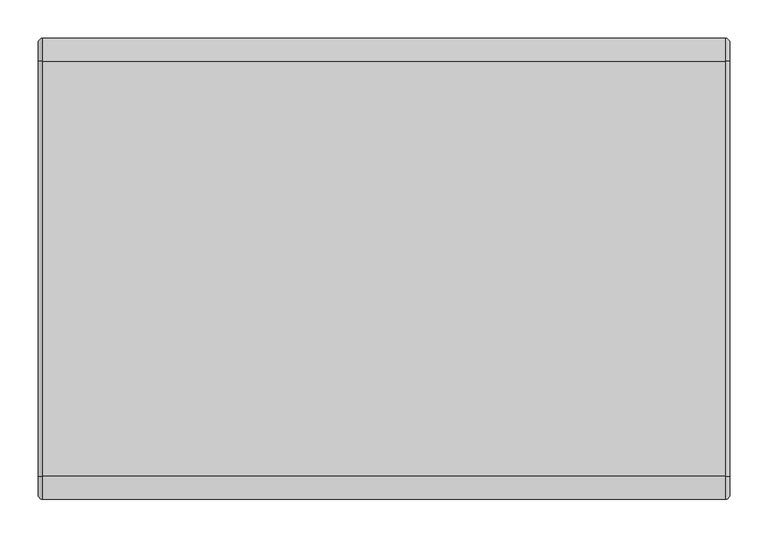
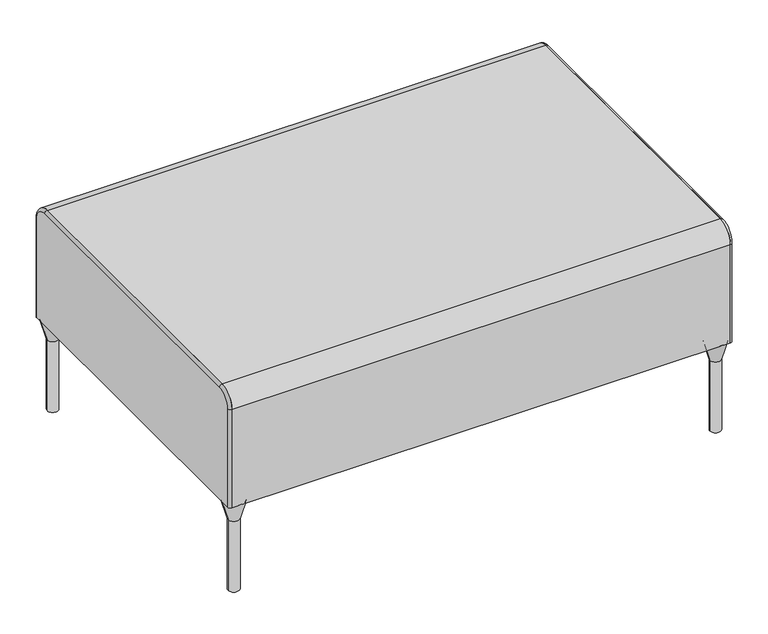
"""IFC4 building model written with IfcOpenShell, lengths in millimetres: furniture geometry, Pouf_Bensen_Neo_NEO000IT : Pouf_Bensen_Neo_NEO000IT."""

from ifc_helpers import new_model, si_unit, point, frame, frame_2d, origin, place, context, project, spatial, polyline, circle_curve, ellipse_curve, trimmed, segment, composite_curve, outline, extrude, source, transform, mapped, element, save
from ifc_brep_helpers import plane_surface, cylinder_surface, revolved_surface, advanced_brep


def furniture_fc90c400(model_context):
    return source(origin(), model_context, "Body", "SolidModel", [
        advanced_brep(
        [(430.0275996, 280.0275996, 0.0), (439.8719303, 280.0275996, 0.0), (420.1832689, 280.0275996, 0.0), (410.0551992, 280.0275996, 170.0), (450.0, 280.0275996, 170.0), (430.0275996, 280.0275996, 170.0), (420.1832689, 280.0275996, 133.7982678), (439.8719303, 280.0275996, 133.7982678)],
        [
            (0, 1),
            (1, 2, circle_curve(frame((430.0275996, 280.0275996, 0.0), z_axis=(0.0, 0.0, -1.0), x_axis=(1.0, 0.0, 0.0)), 9.8443307)),
            (2, 0),
            (2, 1, circle_curve(frame((430.0275996, 280.0275996, 0.0), z_axis=(0.0, 0.0, -1.0), x_axis=(1.0, 0.0, 0.0)), 9.8443307)),
            (3, 4, circle_curve(frame((430.0275996, 280.0275996, 170.0), z_axis=(0.0, 0.0, 1.0), x_axis=(1.0, 0.0, 0.0)), 19.9724004)),
            (4, 5),
            (5, 3),
            (4, 3, circle_curve(frame((430.0275996, 280.0275996, 170.0), z_axis=(0.0, 0.0, 1.0), x_axis=(1.0, 0.0, 0.0)), 19.9724004)),
            (6, 7, circle_curve(frame((430.0275996, 280.0275996, 133.7982678), z_axis=(0.0, 0.0, 1.0), x_axis=(1.0, 0.0, 0.0)), 9.8443307)),
            (7, 4),
            (3, 6),
            (7, 6, circle_curve(frame((430.0275996, 280.0275996, 133.7982678), z_axis=(0.0, 0.0, 1.0), x_axis=(1.0, 0.0, 0.0)), 9.8443307)),
            (1, 7),
            (6, 2),
        ],
        [
            plane_surface(frame((430.0275996, 280.0275996, 0.0), z_axis=(0.0, 0.0, -1.0), x_axis=(1.0, 0.0, 0.0))),
            plane_surface(frame((430.0275996, 280.0275996, 170.0), z_axis=(0.0, 0.0, 1.0), x_axis=(1.0, 0.0, 0.0))),
            revolved_surface(polyline([(450.0, 280.0275996, 170.0), (439.8719303, 280.0275996, 133.7982678)]), (430.0275996, 280.0275996, 210.0), (0.0, 0.0, -1.0)),
            cylinder_surface(frame((430.0275996, 280.0275996, 210.0), z_axis=(0.0, 0.0, -1.0), x_axis=(1.0, 0.0, 0.0)), 9.8443307),
        ],
        [
            (0, [[1, 2, 3]]),
            (0, [[-3, 4, -1]]),
            (1, [[5, 6, 7]]),
            (1, [[8, -7, -6]]),
            (2, [[9, 10, -5, 11]]),
            (2, [[12, -11, -8, -10]]),
            (3, [[-2, 13, -9, 14]]),
            (3, [[-4, -14, -12, -13]]),
        ],
    ),
        advanced_brep(
        [(430.0275996, -280.0275996, 0.0), (420.1832689, -280.0275996, 0.0), (439.8719303, -280.0275996, 0.0), (410.0551992, -280.0275996, 170.0), (430.0275996, -280.0275996, 170.0), (450.0, -280.0275996, 170.0), (420.1832689, -280.0275996, 133.7982678), (439.8719303, -280.0275996, 133.7982678)],
        [
            (0, 1),
            (1, 2, circle_curve(frame((430.0275996, -280.0275996, 0.0), z_axis=(0.0, 0.0, -1.0), x_axis=(1.0, 0.0, 0.0)), 9.8443307)),
            (2, 0),
            (2, 1, circle_curve(frame((430.0275996, -280.0275996, 0.0), z_axis=(0.0, 0.0, -1.0), x_axis=(1.0, 0.0, 0.0)), 9.8443307)),
            (3, 4),
            (4, 5),
            (5, 3, circle_curve(frame((430.0275996, -280.0275996, 170.0), z_axis=(0.0, 0.0, 1.0), x_axis=(1.0, 0.0, 0.0)), 19.9724004)),
            (3, 5, circle_curve(frame((430.0275996, -280.0275996, 170.0), z_axis=(0.0, 0.0, 1.0), x_axis=(1.0, 0.0, 0.0)), 19.9724004)),
            (6, 3),
            (5, 7),
            (7, 6, circle_curve(frame((430.0275996, -280.0275996, 133.7982678), z_axis=(0.0, 0.0, 1.0), x_axis=(1.0, 0.0, 0.0)), 9.8443307)),
            (6, 7, circle_curve(frame((430.0275996, -280.0275996, 133.7982678), z_axis=(0.0, 0.0, 1.0), x_axis=(1.0, 0.0, 0.0)), 9.8443307)),
            (1, 6),
            (7, 2),
        ],
        [
            plane_surface(frame((430.0275996, -280.0275996, 0.0), z_axis=(0.0, 0.0, -1.0), x_axis=(1.0, 0.0, 0.0))),
            plane_surface(frame((430.0275996, -280.0275996, 170.0), z_axis=(0.0, 0.0, 1.0), x_axis=(1.0, 0.0, 0.0))),
            revolved_surface(polyline([(450.0, -280.0275996, 170.0), (439.8719303, -280.0275996, 133.7982678)]), (430.0275996, -280.0275996, 210.0), (0.0, 0.0, -1.0)),
            cylinder_surface(frame((430.0275996, -280.0275996, 210.0), z_axis=(0.0, 0.0, -1.0), x_axis=(1.0, 0.0, 0.0)), 9.8443307),
        ],
        [
            (0, [[1, 2, 3]]),
            (0, [[-3, 4, -1]]),
            (1, [[5, 6, 7]]),
            (1, [[-6, -5, 8]]),
            (2, [[9, -7, 10, 11]]),
            (2, [[-10, -8, -9, 12]]),
            (3, [[13, -11, 14, -2]]),
            (3, [[-14, -12, -13, -4]]),
        ],
    ),
        advanced_brep(
        [(-430.0275996, 280.0275996, 0.0), (-420.1832689, 280.0275996, 0.0), (-439.8719303, 280.0275996, 0.0), (-410.0551992, 280.0275996, 170.0), (-430.0275996, 280.0275996, 170.0), (-450.0, 280.0275996, 170.0), (-420.1832689, 280.0275996, 133.7982678), (-439.8719303, 280.0275996, 133.7982678)],
        [
            (0, 1),
            (1, 2, circle_curve(frame((-430.0275996, 280.0275996, 0.0), z_axis=(0.0, 0.0, -1.0), x_axis=(-1.0, 0.0, 0.0)), 9.8443307)),
            (2, 0),
            (2, 1, circle_curve(frame((-430.0275996, 280.0275996, 0.0), z_axis=(0.0, 0.0, -1.0), x_axis=(-1.0, 0.0, 0.0)), 9.8443307)),
            (3, 4),
            (4, 5),
            (5, 3, circle_curve(frame((-430.0275996, 280.0275996, 170.0), z_axis=(0.0, 0.0, 1.0), x_axis=(-1.0, 0.0, 0.0)), 19.9724004)),
            (3, 5, circle_curve(frame((-430.0275996, 280.0275996, 170.0), z_axis=(0.0, 0.0, 1.0), x_axis=(-1.0, 0.0, 0.0)), 19.9724004)),
            (6, 3),
            (5, 7),
            (7, 6, circle_curve(frame((-430.0275996, 280.0275996, 133.7982678), z_axis=(0.0, 0.0, 1.0), x_axis=(-1.0, 0.0, 0.0)), 9.8443307)),
            (6, 7, circle_curve(frame((-430.0275996, 280.0275996, 133.7982678), z_axis=(0.0, 0.0, 1.0), x_axis=(-1.0, 0.0, 0.0)), 9.8443307)),
            (1, 6),
            (7, 2),
        ],
        [
            plane_surface(frame((-430.0275996, 280.0275996, 0.0), z_axis=(0.0, 0.0, -1.0), x_axis=(-1.0, 0.0, 0.0))),
            plane_surface(frame((-430.0275996, 280.0275996, 170.0), z_axis=(0.0, 0.0, 1.0), x_axis=(-1.0, 0.0, 0.0))),
            revolved_surface(polyline([(-450.0, 280.0275996, 170.0), (-439.8719303, 280.0275996, 133.7982678)]), (-430.0275996, 280.0275996, 210.0), (0.0, 0.0, -1.0)),
            cylinder_surface(frame((-430.0275996, 280.0275996, 210.0), z_axis=(0.0, 0.0, -1.0), x_axis=(-1.0, 0.0, 0.0)), 9.8443307),
        ],
        [
            (0, [[1, 2, 3]]),
            (0, [[-3, 4, -1]]),
            (1, [[5, 6, 7]]),
            (1, [[-6, -5, 8]]),
            (2, [[9, -7, 10, 11]]),
            (2, [[-10, -8, -9, 12]]),
            (3, [[13, -11, 14, -2]]),
            (3, [[-14, -12, -13, -4]]),
        ],
    ),
        advanced_brep(
        [(-430.0275996, -280.0275996, 0.0), (-439.8719303, -280.0275996, 0.0), (-420.1832689, -280.0275996, 0.0), (-410.0551992, -280.0275996, 170.0), (-450.0, -280.0275996, 170.0), (-430.0275996, -280.0275996, 170.0), (-420.1832689, -280.0275996, 133.7982678), (-439.8719303, -280.0275996, 133.7982678)],
        [
            (0, 1),
            (1, 2, circle_curve(frame((-430.0275996, -280.0275996, 0.0), z_axis=(0.0, 0.0, -1.0), x_axis=(-1.0, 0.0, 0.0)), 9.8443307)),
            (2, 0),
            (2, 1, circle_curve(frame((-430.0275996, -280.0275996, 0.0), z_axis=(0.0, 0.0, -1.0), x_axis=(-1.0, 0.0, 0.0)), 9.8443307)),
            (3, 4, circle_curve(frame((-430.0275996, -280.0275996, 170.0), z_axis=(0.0, 0.0, 1.0), x_axis=(-1.0, 0.0, 0.0)), 19.9724004)),
            (4, 5),
            (5, 3),
            (4, 3, circle_curve(frame((-430.0275996, -280.0275996, 170.0), z_axis=(0.0, 0.0, 1.0), x_axis=(-1.0, 0.0, 0.0)), 19.9724004)),
            (6, 7, circle_curve(frame((-430.0275996, -280.0275996, 133.7982678), z_axis=(0.0, 0.0, 1.0), x_axis=(-1.0, 0.0, 0.0)), 9.8443307)),
            (7, 4),
            (3, 6),
            (7, 6, circle_curve(frame((-430.0275996, -280.0275996, 133.7982678), z_axis=(0.0, 0.0, 1.0), x_axis=(-1.0, 0.0, 0.0)), 9.8443307)),
            (1, 7),
            (6, 2),
        ],
        [
            plane_surface(frame((-430.0275996, -280.0275996, 0.0), z_axis=(0.0, 0.0, -1.0), x_axis=(-1.0, 0.0, 0.0))),
            plane_surface(frame((-430.0275996, -280.0275996, 170.0), z_axis=(0.0, 0.0, 1.0), x_axis=(-1.0, 0.0, 0.0))),
            revolved_surface(polyline([(-450.0, -280.0275996, 170.0), (-439.8719303, -280.0275996, 133.7982678)]), (-430.0275996, -280.0275996, 210.0), (0.0, 0.0, -1.0)),
            cylinder_surface(frame((-430.0275996, -280.0275996, 210.0), z_axis=(0.0, 0.0, -1.0), x_axis=(-1.0, 0.0, 0.0)), 9.8443307),
        ],
        [
            (0, [[1, 2, 3]]),
            (0, [[-3, 4, -1]]),
            (1, [[5, 6, 7]]),
            (1, [[8, -7, -6]]),
            (2, [[9, 10, -5, 11]]),
            (2, [[12, -11, -8, -10]]),
            (3, [[-2, 13, -9, 14]]),
            (3, [[-4, -14, -12, -13]]),
        ],
    ),
        advanced_brep(
        [(-445.0, 300.0, 170.0), (-445.0, 300.0, 356.0), (-445.0, 270.0, 386.0), (-445.0, -270.0, 386.0), (-445.0, -300.0, 356.0), (-445.0, -300.0, 170.0), (-450.0, 295.0, 170.0), (-450.0, -295.0, 170.0), (-450.0, -295.0, 356.0), (-450.0, -270.0, 381.0), (-450.0, 270.0, 381.0), (-450.0, 295.0, 356.0)],
        [
            (0, 1),
            (1, 2, circle_curve(frame((-445.0, 270.0, 356.0), z_axis=(1.0, 0.0, 0.0), x_axis=(0.0, 1.0, 0.0)), 30.0)),
            (2, 3),
            (3, 4, circle_curve(frame((-445.0, -270.0, 356.0), z_axis=(1.0, 0.0, 0.0), x_axis=(0.0, 0.0, 1.0)), 30.0)),
            (4, 5),
            (5, 0),
            (6, 7),
            (7, 8),
            (8, 9, circle_curve(frame((-450.0, -270.0, 356.0), z_axis=(-1.0, 0.0, 0.0), x_axis=(0.0, 0.0, 1.0)), 25.0)),
            (9, 10),
            (10, 11, circle_curve(frame((-450.0, 270.0, 356.0), z_axis=(-1.0, 0.0, 0.0), x_axis=(0.0, 1.0, 0.0)), 25.0)),
            (11, 6),
            (5, 7, circle_curve(frame((-445.0, -295.0, 170.0), z_axis=(0.0, 0.0, -1.0), x_axis=(0.0, 1.0, 0.0)), 5.0)),
            (6, 0, circle_curve(frame((-445.0, 295.0, 170.0), z_axis=(0.0, 0.0, -1.0), x_axis=(0.0, -1.0, 0.0)), 5.0)),
            (2, 10, circle_curve(frame((-445.0, 270.0, 381.0), z_axis=(0.0, -1.0, 0.0), x_axis=(0.0, 0.0, -1.0)), 5.0)),
            (9, 3, circle_curve(frame((-445.0, -270.0, 381.0), z_axis=(0.0, 1.0, 0.0), x_axis=(0.0, 0.0, -1.0)), 5.0)),
            (8, 4, circle_curve(frame((-445.0, -295.0, 356.0), z_axis=(0.0, 0.0, 1.0), x_axis=(0.0, 1.0, 0.0)), 5.0)),
            (11, 1, circle_curve(frame((-445.0, 295.0, 356.0), z_axis=(0.0, 0.0, -1.0), x_axis=(0.0, -1.0, 0.0)), 5.0)),
        ],
        [
            plane_surface(frame((-445.0, -270.0, 381.0), z_axis=(1.0, 0.0, 0.0), x_axis=(0.0, -1.0, 0.0))),
            plane_surface(frame((-450.0, -270.0, 381.0), z_axis=(-1.0, 0.0, 0.0), x_axis=(0.0, 1.0, 0.0))),
            plane_surface(frame((-445.0, -295.0, 170.0), z_axis=(0.0, 0.0, -1.0), x_axis=(-1.0, 0.0, 0.0))),
            cylinder_surface(frame((-445.0, 270.0, 381.0), z_axis=(0.0, 1.0, 0.0), x_axis=(0.0, 0.0, -1.0)), 5.0),
            revolved_surface(trimmed(ellipse_curve(frame((-445.0, -270.0, 381.0), z_axis=(0.0, 1.0, 0.0), x_axis=(0.0, 0.0, -1.0)), 5.0, 5.0), [point((-450.0, -270.0, 381.0))], [point((-445.0, -270.0, 386.0))], True, "CARTESIAN"), (35.0, -270.0, 356.0), (1.0, 0.0, 0.0)),
            cylinder_surface(frame((-445.0, -295.0, 356.0), z_axis=(0.0, 0.0, 1.0), x_axis=(0.0, 1.0, 0.0)), 5.0),
            cylinder_surface(frame((-445.0, 295.0, 170.0), z_axis=(0.0, 0.0, -1.0), x_axis=(0.0, -1.0, 0.0)), 5.0),
            revolved_surface(trimmed(ellipse_curve(frame((-445.0, 295.0, 356.0), z_axis=(0.0, 0.0, -1.0), x_axis=(0.0, -1.0, 0.0)), 5.0, 5.0), [point((-450.0, 295.0, 356.0))], [point((-445.0, 300.0, 356.0))], True, "CARTESIAN"), (35.0, 270.0, 356.0), (1.0, 0.0, 0.0)),
        ],
        [
            (0, [[1, 2, 3, 4, 5, 6]]),
            (1, [[7, 8, 9, 10, 11, 12]]),
            (2, [[-6, 13, -7, 14]]),
            (3, [[15, -10, 16, -3]]),
            (4, [[-16, -9, 17, -4]]),
            (5, [[-17, -8, -13, -5]]),
            (6, [[-14, -12, 18, -1]]),
            (7, [[-15, -2, -18, -11]]),
        ],
    ),
        advanced_brep(
        [(445.0, 300.0, 170.0), (450.0, 295.0, 170.0), (450.0, -295.0, 170.0), (445.0, -300.0, 170.0), (450.0, 270.0, 381.0), (445.0, 270.0, 386.0), (445.0, -270.0, 386.0), (450.0, -270.0, 381.0), (445.0, -300.0, 356.0), (450.0, -295.0, 356.0), (445.0, 300.0, 356.0), (450.0, 295.0, 356.0)],
        [
            (0, 1, circle_curve(frame((445.0, 295.0, 170.0), z_axis=(0.0, 0.0, -1.0), x_axis=(0.0, 1.0, 0.0)), 5.0)),
            (1, 2),
            (2, 3, circle_curve(frame((445.0, -295.0, 170.0), z_axis=(0.0, 0.0, -1.0), x_axis=(0.0, -1.0, 0.0)), 5.0)),
            (3, 0),
            (4, 5, circle_curve(frame((445.0, 270.0, 381.0), z_axis=(0.0, -1.0, 0.0), x_axis=(0.0, 0.0, 1.0)), 5.0)),
            (5, 6),
            (6, 7, circle_curve(frame((445.0, -270.0, 381.0), z_axis=(0.0, 1.0, 0.0), x_axis=(0.0, 0.0, 1.0)), 5.0)),
            (7, 4),
            (6, 8, circle_curve(frame((445.0, -270.0, 356.0), z_axis=(1.0, 0.0, 0.0), x_axis=(0.0, 0.0, 1.0)), 30.0)),
            (8, 9, circle_curve(frame((445.0, -295.0, 356.0), z_axis=(0.0, 0.0, 1.0), x_axis=(0.0, -1.0, 0.0)), 5.0)),
            (9, 7, circle_curve(frame((450.0, -270.0, 356.0), z_axis=(-1.0, 0.0, 0.0), x_axis=(0.0, 0.0, 1.0)), 25.0)),
            (8, 3),
            (2, 9),
            (0, 10),
            (10, 11, circle_curve(frame((445.0, 295.0, 356.0), z_axis=(0.0, 0.0, -1.0), x_axis=(0.0, 1.0, 0.0)), 5.0)),
            (11, 1),
            (5, 10, circle_curve(frame((445.0, 270.0, 356.0), z_axis=(-1.0, 0.0, 0.0), x_axis=(0.0, 1.0, 0.0)), 30.0)),
            (4, 11, circle_curve(frame((450.0, 270.0, 356.0), z_axis=(-1.0, 0.0, 0.0), x_axis=(0.0, 1.0, 0.0)), 25.0)),
        ],
        [
            plane_surface(frame((-35.0, 300.0, 170.0), z_axis=(0.0, 0.0, -1.0), x_axis=(-1.0, 0.0, 0.0))),
            cylinder_surface(frame((445.0, 270.0, 381.0), z_axis=(0.0, 1.0, 0.0), x_axis=(0.0, 0.0, 1.0)), 5.0),
            revolved_surface(trimmed(ellipse_curve(frame((445.0, -270.0, 381.0), z_axis=(0.0, 1.0, 0.0), x_axis=(0.0, 0.0, 1.0)), 5.0, 5.0), [point((445.0, -270.0, 386.0))], [point((450.0, -270.0, 381.0))], True, "CARTESIAN"), (-35.0, -270.0, 356.0), (1.0, 0.0, 0.0)),
            cylinder_surface(frame((445.0, -295.0, 356.0), z_axis=(0.0, 0.0, 1.0), x_axis=(0.0, -1.0, 0.0)), 5.0),
            cylinder_surface(frame((445.0, 295.0, 170.0), z_axis=(0.0, 0.0, -1.0), x_axis=(0.0, 1.0, 0.0)), 5.0),
            plane_surface(frame((445.0, 295.0, 170.0), z_axis=(-1.0, 0.0, 0.0), x_axis=(0.0, 0.0, 1.0))),
            revolved_surface(trimmed(ellipse_curve(frame((445.0, 295.0, 356.0), z_axis=(0.0, 0.0, -1.0), x_axis=(0.0, 1.0, 0.0)), 5.0, 5.0), [point((445.0, 300.0, 356.0))], [point((450.0, 295.0, 356.0))], True, "CARTESIAN"), (-35.0, 270.0, 356.0), (1.0, 0.0, 0.0)),
            plane_surface(frame((450.0, 295.0, 356.0), z_axis=(1.0, 0.0, 0.0), x_axis=(0.0, 0.0, 1.0))),
        ],
        [
            (0, [[1, 2, 3, 4]]),
            (1, [[5, 6, 7, 8]]),
            (2, [[-7, 9, 10, 11]]),
            (3, [[-10, 12, -3, 13]]),
            (4, [[-1, 14, 15, 16]]),
            (5, [[-4, -12, -9, -6, 17, -14]]),
            (6, [[-5, 18, -15, -17]]),
            (7, [[-2, -16, -18, -8, -11, -13]]),
        ],
    ),
        extrude(outline(composite_curve([segment(polyline([(-270.0, 386.0), (270.0, 386.0)]), True, "CONTINUOUS"), segment(trimmed(circle_curve(frame_2d((270.0, 356.0)), 30.0), [point((270.0, 386.0))], [point((300.0, 356.0))], False, "CARTESIAN"), True, "CONTINUOUS"), segment(polyline([(300.0, 356.0), (300.0, 170.0), (-300.0, 170.0), (-300.0, 356.0)]), True, "CONTINUOUS"), segment(trimmed(circle_curve(frame_2d((-270.0, 356.0)), 30.0), [point((-300.0, 356.0))], [point((-270.0, 386.0))], False, "CARTESIAN"), True, "CONTINUOUS")], self_intersect=False)), frame((-445.0, 0.0, 0.0), z_axis=(1.0, 0.0, 0.0), x_axis=(0.0, 1.0, 0.0)), (0.0, 0.0, 1.0), 890.0),
    ])


if __name__ == "__main__":
    model = new_model("IFC4")
    model_context = context("Model", 3, world=origin())
    ifc_project = project(units=[si_unit("LENGTHUNIT", "METRE", prefix="MILLI")], contexts=[model_context])
    site = spatial("IfcSite", under=ifc_project)
    building = spatial("IfcBuilding", under=site)
    placement = place(None, origin())
    furniture_shape = furniture_fc90c400(model_context)
    element("IfcFurniture", 1, ObjectType="Pouf_Bensen_Neo_NEO000IT : Pouf_Bensen_Neo_NEO000IT", at=placement, inside=building, context=model_context, shape_type="MappedRepresentation", body=[
        mapped(furniture_shape, transform((0.0, 0.0, 0.0), x_axis=(1.0, 0.0, 0.0), y_axis=(0.0, 1.0, 0.0), z_axis=(0.0, 0.0, 1.0))),
    ])
    save(model, "model.ifc")
